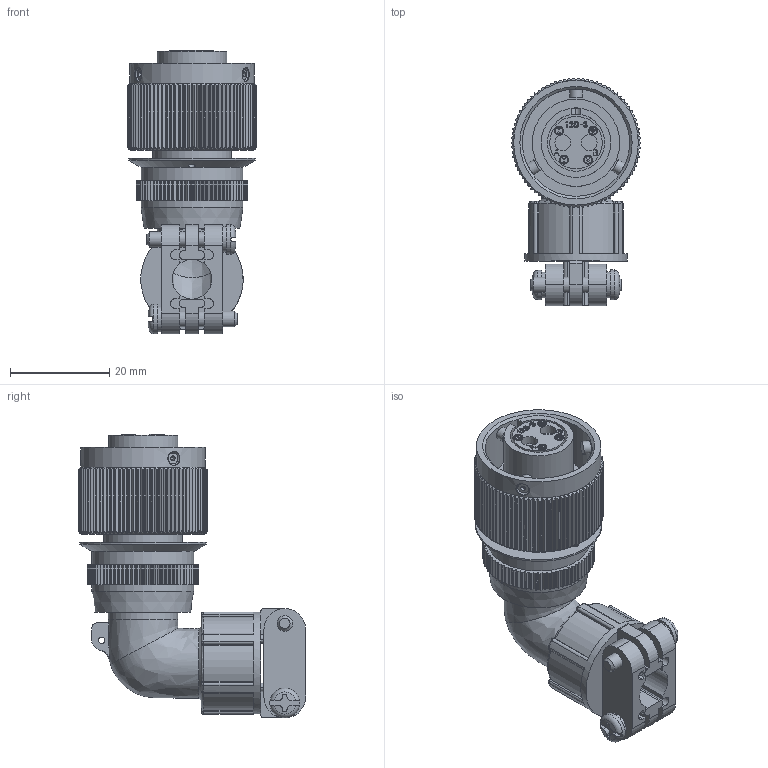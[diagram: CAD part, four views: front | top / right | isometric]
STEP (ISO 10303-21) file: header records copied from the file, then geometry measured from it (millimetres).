
FILE_DESCRIPTION (( 'STEP AP203' ), '1' );
FILE_NAME ('DCA3108F12S-3S-D(R1).STEP', '2021-12-23T08:29:08', ( '' ), ( '' ), 'SwSTEP 2.0', 'SolidWorks 2018', '' );
FILE_SCHEMA (( 'CONFIG_CONTROL_DESIGN' ));
Length unit declared in the file: millimetre
Products named in the file (1): DCA3108F12S-3S-D(R1)
Bounding box: 26 x 45.74 x 57.1 mm (x, y, z)
Volume: 17562.2 mm3; surface area: 12565.3 mm2
Topology: 1 solids, 1 shells, 1484 faces, 4202 edges, 2771 vertices
Faces by surface type: cylinder 782, plane 558, bspline 88, cone 23, torus 17, sphere 16
Full cylindrical faces by diameter (mm): 1 x5, 1.3 x3, 1.5 x4, 1.8 x4, 2 x2, 2.2 x6, 2.6 x5, 2.8 x3, 3.1 x6, 3.2 x6, 6 x2, 8 x1, 8.3 x1, 10.55 x1, 10.6 x1, 11.5 x1, 11.7 x1, 14 x1, 15.84 x1, 17.5 x1, 17.6 x1, 20.5 x2, 20.6 x1, 21.6 x1, 25.1 x1, 25.5 x1
Entity records: 62206 total; most frequent: CARTESIAN_POINT 25635, ORIENTED_EDGE 8132, DIRECTION 6861, EDGE_CURVE 4066, VERTEX_POINT 2734, AXIS2_PLACEMENT_3D 2483, VECTOR 1895, LINE 1895
